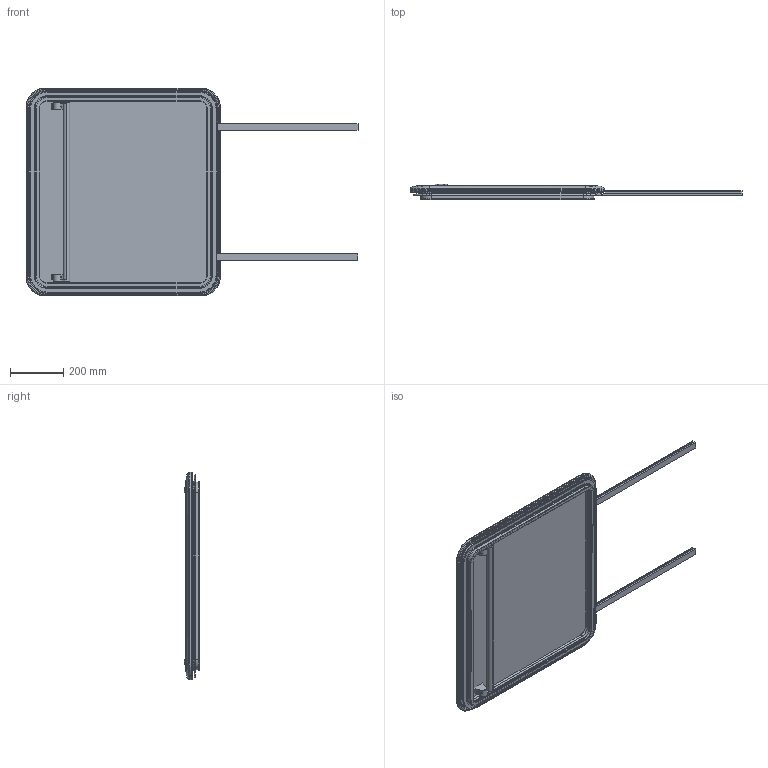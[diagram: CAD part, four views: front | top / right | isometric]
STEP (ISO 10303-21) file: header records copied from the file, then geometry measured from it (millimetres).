
FILE_DESCRIPTION((''),'2;1');
FILE_NAME('LEWMAR-HATCH-PILOT-N1_ASM','2008-02-06T',('skennedy'),(''),'PRO/ENGINEER BY PARAMETRIC TECHNOLOGY CORPORATION, 2007030','PRO/ENGINEER BY PARAMETRIC TECHNOLOGY CORPORATION, 2007030','');
FILE_SCHEMA(('CONFIG_CONTROL_DESIGN'));
Length unit declared in the file: millimetre
Products named in the file (5): FRAME_N1; 30159903; PILOT_HANDLE_N1; PILOT_N1_LOWER_ALL; LEWMAR-HATCH-PILOT-N1_ASM
Assembly tree (4 placements, depth 2):
  LEWMAR-HATCH-PILOT-N1_ASM
    FRAME_N1
    30159903
    PILOT_HANDLE_N1
    PILOT_N1_LOWER_ALL
Bounding box: 1246.5 x 57.8 x 780 mm (x, y, z)
Volume: 6595479.8 mm3; surface area: 2264988.1 mm2
Topology: 3 solids, 6 shells, 1093 faces, 2671 edges, 1620 vertices
Faces by surface type: plane 457, cylinder 312, bspline 192, torus 84, cone 40, sphere 8
Entity records: 37543 total; most frequent: CARTESIAN_POINT 12242, ORIENTED_EDGE 5342, DIRECTION 5063, EDGE_CURVE 2671, AXIS2_PLACEMENT_3D 1726, VERTEX_POINT 1620, VECTOR 1611, LINE 1611
